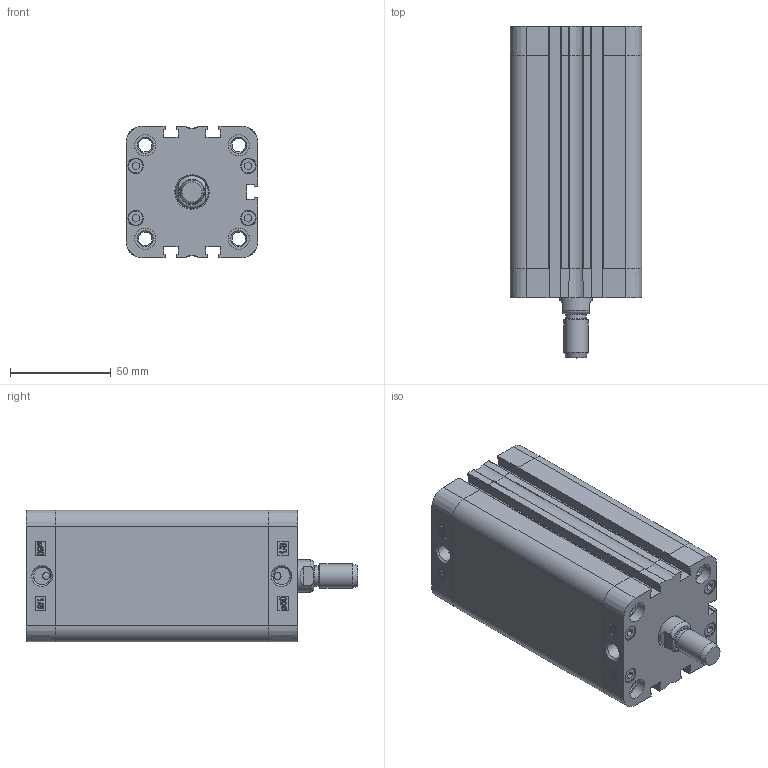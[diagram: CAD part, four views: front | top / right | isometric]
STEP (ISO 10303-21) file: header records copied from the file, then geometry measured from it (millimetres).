
FILE_DESCRIPTION((''),'2;1');
FILE_NAME('T:\Archivio Inventor\- CATALOGHI 2012\SERIE P - NUOVA\PDM\PDM050\PDM050.---.GS.M\PDM050.090.GS.M.stp','2013-02-01T12:21:13',('Administrator'),(''),'Autodesk Inventor 2012','Autodesk Inventor 2012','');
FILE_SCHEMA(('CONFIG_CONTROL_DESIGN'));
Length unit declared in the file: millimetre
Products named in the file (1): PDM050.090.GS.M
Bounding box: 65.5 x 165 x 65.5 mm (x, y, z)
Volume: 270458.8 mm3; surface area: 106781.8 mm2
Topology: 2 solids, 6 shells, 780 faces, 1860 edges, 1167 vertices
Faces by surface type: plane 335, bspline 196, cylinder 131, torus 56, cone 46, sphere 16
Full cylindrical faces by diameter (mm): 3.5 x2, 5.2 x4, 6.647 x8, 7.5 x8, 7.7 x8, 8.047 x4, 8.566 x2, 10 x1, 10.5 x8, 12 x2, 16 x1, 16.5 x1, 50 x1, 52.4 x1, 52.6 x1
Entity records: 25589 total; most frequent: CARTESIAN_POINT 8474, ORIENTED_EDGE 3488, DIRECTION 2866, EDGE_CURVE 1744, VERTEX_POINT 1148, AXIS2_PLACEMENT_3D 978, EDGE_LOOP 962, VECTOR 910
